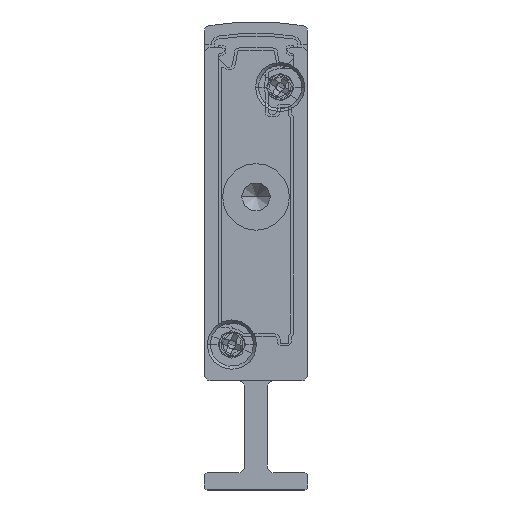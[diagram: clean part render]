
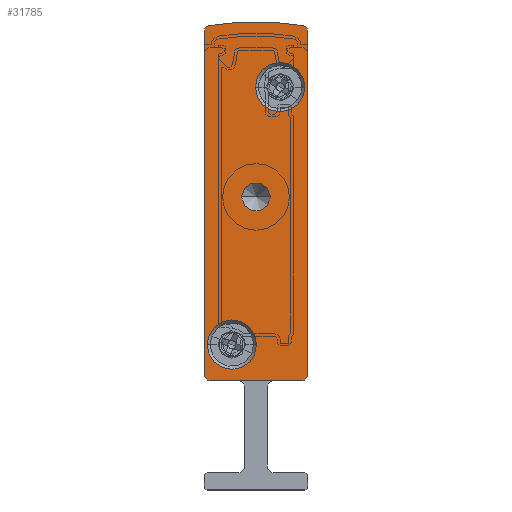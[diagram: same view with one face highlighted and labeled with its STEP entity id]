
A CAD part, front view. The second image highlights one B-rep face of the part: STEP entity #31785.
In plain terms, the highlighted planar face has unit normal (0, -1, 0).
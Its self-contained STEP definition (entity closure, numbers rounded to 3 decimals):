
#396 = DIRECTION ( 'NONE',  ( 0., 1., 0. ) ) ;
#408 = CARTESIAN_POINT ( 'NONE',  ( 3.25, -2.5, 25.5 ) ) ;
#771 = CARTESIAN_POINT ( 'NONE',  ( 0.408, -2.5, 40.393 ) ) ;
#800 = DIRECTION ( 'NONE',  ( 1., 0., 0. ) ) ;
#884 = EDGE_CURVE ( 'NONE', #22209, #15257, #7008, .T. ) ;
#1146 = FACE_BOUND ( 'NONE', #15291, .T. ) ;
#2244 = DIRECTION ( 'NONE',  ( 0., 1., 0. ) ) ;
#2421 = AXIS2_PLACEMENT_3D ( 'NONE', #19255, #29443, #11363 ) ;
#2472 = CARTESIAN_POINT ( 'NONE',  ( 0., -2.5, 39.902 ) ) ;
#2985 = CARTESIAN_POINT ( 'NONE',  ( 9., -2.5, 39.902 ) ) ;
#3106 = DIRECTION ( 'NONE',  ( -1., 0., 0. ) ) ;
#3147 = DIRECTION ( 'NONE',  ( 1., 0., 0. ) ) ;
#3512 = EDGE_CURVE ( 'NONE', #21135, #7149, #32043, .T. ) ;
#4092 = ORIENTED_EDGE ( 'NONE', *, *, #18739, .F. ) ;
#4157 = VERTEX_POINT ( 'NONE', #25643 ) ;
#4274 = VERTEX_POINT ( 'NONE', #14602 ) ;
#4283 = CARTESIAN_POINT ( 'NONE',  ( 0.5, -2.5, 39.902 ) ) ;
#4469 = AXIS2_PLACEMENT_3D ( 'NONE', #31630, #23795, #16023 ) ;
#4506 = ORIENTED_EDGE ( 'NONE', *, *, #21508, .F. ) ;
#4581 = CARTESIAN_POINT ( 'NONE',  ( 8.5, -2.5, 9.5 ) ) ;
#4584 = EDGE_CURVE ( 'NONE', #27306, #22209, #31386, .T. ) ;
#4611 = CIRCLE ( 'NONE', #23855, 0.5 ) ;
#4636 = VECTOR ( 'NONE', #9431, 1000. ) ;
#4805 = AXIS2_PLACEMENT_3D ( 'NONE', #23309, #21094, #23426 ) ;
#5381 = CARTESIAN_POINT ( 'NONE',  ( 4.5, -2.5, 25.5 ) ) ;
#5399 = VERTEX_POINT ( 'NONE', #16765 ) ;
#5523 = AXIS2_PLACEMENT_3D ( 'NONE', #11200, #10968, #800 ) ;
#5588 = DIRECTION ( 'NONE',  ( -1., 0., 0. ) ) ;
#5612 = CARTESIAN_POINT ( 'NONE',  ( 8.592, -2.5, 40.393 ) ) ;
#5641 = CARTESIAN_POINT ( 'NONE',  ( 9., -2.5, 10. ) ) ;
#5718 = DIRECTION ( 'NONE',  ( 1., 0., 0. ) ) ;
#5820 = DIRECTION ( 'NONE',  ( -1., 0., 0. ) ) ;
#5857 = CARTESIAN_POINT ( 'NONE',  ( 0., -2.5, 10. ) ) ;
#6245 = AXIS2_PLACEMENT_3D ( 'NONE', #29293, #29409, #3147 ) ;
#6287 = ORIENTED_EDGE ( 'NONE', *, *, #18529, .F. ) ;
#6732 = ORIENTED_EDGE ( 'NONE', *, *, #22686, .T. ) ;
#7008 = LINE ( 'NONE', #2985, #11057 ) ;
#7106 = DIRECTION ( 'NONE',  ( -1., 0., 0. ) ) ;
#7149 = VERTEX_POINT ( 'NONE', #2472 ) ;
#7529 = EDGE_LOOP ( 'NONE', ( #11755, #6732 ) ) ;
#7634 = CARTESIAN_POINT ( 'NONE',  ( 9., -2.5, 39.902 ) ) ;
#7943 = AXIS2_PLACEMENT_3D ( 'NONE', #10150, #2244, #12693 ) ;
#7958 = CARTESIAN_POINT ( 'NONE',  ( 4.5, -2.5, 25.5 ) ) ;
#8032 = FACE_BOUND ( 'NONE', #7529, .T. ) ;
#8749 = ORIENTED_EDGE ( 'NONE', *, *, #3512, .F. ) ;
#9431 = DIRECTION ( 'NONE',  ( 0., 0., 1. ) ) ;
#9870 = VECTOR ( 'NONE', #20631, 1000. ) ;
#9899 = CIRCLE ( 'NONE', #22816, 0.5 ) ;
#10150 = CARTESIAN_POINT ( 'NONE',  ( 8.5, -2.5, 10. ) ) ;
#10543 = CIRCLE ( 'NONE', #7943, 0.5 ) ;
#10547 = DIRECTION ( 'NONE',  ( 0., 1., 0. ) ) ;
#10786 = DIRECTION ( 'NONE',  ( 0., -1., 0. ) ) ;
#10929 = AXIS2_PLACEMENT_3D ( 'NONE', #7958, #10547, #5820 ) ;
#10968 = DIRECTION ( 'NONE',  ( 0., -1., 0. ) ) ;
#11057 = VECTOR ( 'NONE', #28922, 1000. ) ;
#11200 = CARTESIAN_POINT ( 'NONE',  ( 2.4, -2.5, 12.65 ) ) ;
#11363 = DIRECTION ( 'NONE',  ( -1., 0., 0. ) ) ;
#11755 = ORIENTED_EDGE ( 'NONE', *, *, #26199, .T. ) ;
#12693 = DIRECTION ( 'NONE',  ( -1., 0., 0. ) ) ;
#12916 = VERTEX_POINT ( 'NONE', #24283 ) ;
#12974 = ORIENTED_EDGE ( 'NONE', *, *, #15947, .F. ) ;
#13917 = CIRCLE ( 'NONE', #2421, 23.658 ) ;
#14022 = CIRCLE ( 'NONE', #19822, 1.25 ) ;
#14214 = AXIS2_PLACEMENT_3D ( 'NONE', #23332, #10786, #5718 ) ;
#14602 = CARTESIAN_POINT ( 'NONE',  ( 0.5, -2.5, 9.5 ) ) ;
#14654 = ORIENTED_EDGE ( 'NONE', *, *, #27545, .F. ) ;
#15257 = VERTEX_POINT ( 'NONE', #5641 ) ;
#15291 = EDGE_LOOP ( 'NONE', ( #19580, #14654 ) ) ;
#15759 = CIRCLE ( 'NONE', #5523, 2.15 ) ;
#15915 = CARTESIAN_POINT ( 'NONE',  ( 0.5, -2.5, 10. ) ) ;
#15947 = EDGE_CURVE ( 'NONE', #15257, #22197, #10543, .T. ) ;
#16023 = DIRECTION ( 'NONE',  ( -1., 0., 0. ) ) ;
#16765 = CARTESIAN_POINT ( 'NONE',  ( 8.75, -2.5, 35.05 ) ) ;
#17363 = FACE_BOUND ( 'NONE', #18501, .T. ) ;
#17412 = VERTEX_POINT ( 'NONE', #23694 ) ;
#18501 = EDGE_LOOP ( 'NONE', ( #29066, #20369 ) ) ;
#18529 = EDGE_CURVE ( 'NONE', #7149, #23867, #4611, .T. ) ;
#18546 = ORIENTED_EDGE ( 'NONE', *, *, #30314, .F. ) ;
#18739 = EDGE_CURVE ( 'NONE', #23867, #27306, #13917, .T. ) ;
#19255 = CARTESIAN_POINT ( 'NONE',  ( 4.5, -2.5, 17.092 ) ) ;
#19580 = ORIENTED_EDGE ( 'NONE', *, *, #21483, .F. ) ;
#19603 = CIRCLE ( 'NONE', #14214, 2.15 ) ;
#19822 = AXIS2_PLACEMENT_3D ( 'NONE', #5381, #396, #25986 ) ;
#20369 = ORIENTED_EDGE ( 'NONE', *, *, #31497, .F. ) ;
#20631 = DIRECTION ( 'NONE',  ( -1., 0., 0. ) ) ;
#20747 = DIRECTION ( 'NONE',  ( 0., 1., 0. ) ) ;
#21094 = DIRECTION ( 'NONE',  ( 0., -1., 0. ) ) ;
#21135 = VERTEX_POINT ( 'NONE', #5857 ) ;
#21483 = EDGE_CURVE ( 'NONE', #5399, #4157, #21619, .T. ) ;
#21508 = EDGE_CURVE ( 'NONE', #22197, #4274, #22009, .T. ) ;
#21619 = CIRCLE ( 'NONE', #4805, 2.15 ) ;
#21791 = VERTEX_POINT ( 'NONE', #33035 ) ;
#22009 = LINE ( 'NONE', #30931, #9870 ) ;
#22197 = VERTEX_POINT ( 'NONE', #4581 ) ;
#22209 = VERTEX_POINT ( 'NONE', #7634 ) ;
#22213 = CARTESIAN_POINT ( 'NONE',  ( 0., -2.5, 39.902 ) ) ;
#22551 = ORIENTED_EDGE ( 'NONE', *, *, #884, .F. ) ;
#22686 = EDGE_CURVE ( 'NONE', #17412, #27391, #14022, .T. ) ;
#22816 = AXIS2_PLACEMENT_3D ( 'NONE', #15915, #31198, #3106 ) ;
#23309 = CARTESIAN_POINT ( 'NONE',  ( 6.6, -2.5, 35.05 ) ) ;
#23332 = CARTESIAN_POINT ( 'NONE',  ( 2.4, -2.5, 12.65 ) ) ;
#23426 = DIRECTION ( 'NONE',  ( 1., 0., 0. ) ) ;
#23694 = CARTESIAN_POINT ( 'NONE',  ( 5.75, -2.5, 25.5 ) ) ;
#23795 = DIRECTION ( 'NONE',  ( 0., 1., 0. ) ) ;
#23855 = AXIS2_PLACEMENT_3D ( 'NONE', #28555, #20747, #5588 ) ;
#23867 = VERTEX_POINT ( 'NONE', #771 ) ;
#24197 = FACE_OUTER_BOUND ( 'NONE', #27285, .T. ) ;
#24235 = CIRCLE ( 'NONE', #10929, 1.25 ) ;
#24283 = CARTESIAN_POINT ( 'NONE',  ( 0.25, -2.5, 12.65 ) ) ;
#24703 = DIRECTION ( 'NONE',  ( 0., 1., 0. ) ) ;
#25643 = CARTESIAN_POINT ( 'NONE',  ( 4.45, -2.5, 35.05 ) ) ;
#25986 = DIRECTION ( 'NONE',  ( -1., 0., 0. ) ) ;
#26199 = EDGE_CURVE ( 'NONE', #27391, #17412, #24235, .T. ) ;
#27285 = EDGE_LOOP ( 'NONE', ( #6287, #8749, #18546, #4506, #12974, #22551, #32392, #4092 ) ) ;
#27306 = VERTEX_POINT ( 'NONE', #5612 ) ;
#27391 = VERTEX_POINT ( 'NONE', #408 ) ;
#27545 = EDGE_CURVE ( 'NONE', #4157, #5399, #30001, .T. ) ;
#28555 = CARTESIAN_POINT ( 'NONE',  ( 0.5, -2.5, 39.902 ) ) ;
#28922 = DIRECTION ( 'NONE',  ( 0., 0., -1. ) ) ;
#29066 = ORIENTED_EDGE ( 'NONE', *, *, #32979, .F. ) ;
#29293 = CARTESIAN_POINT ( 'NONE',  ( 6.6, -2.5, 35.05 ) ) ;
#29409 = DIRECTION ( 'NONE',  ( 0., -1., 0. ) ) ;
#29443 = DIRECTION ( 'NONE',  ( 0., 1., 0. ) ) ;
#30001 = CIRCLE ( 'NONE', #6245, 2.15 ) ;
#30050 = AXIS2_PLACEMENT_3D ( 'NONE', #4283, #24703, #7106 ) ;
#30062 = PLANE ( 'NONE',  #30050 ) ;
#30314 = EDGE_CURVE ( 'NONE', #4274, #21135, #9899, .T. ) ;
#30931 = CARTESIAN_POINT ( 'NONE',  ( 0.5, -2.5, 9.5 ) ) ;
#31198 = DIRECTION ( 'NONE',  ( 0., 1., 0. ) ) ;
#31386 = CIRCLE ( 'NONE', #4469, 0.5 ) ;
#31497 = EDGE_CURVE ( 'NONE', #12916, #21791, #15759, .T. ) ;
#31630 = CARTESIAN_POINT ( 'NONE',  ( 8.5, -2.5, 39.902 ) ) ;
#31785 = ADVANCED_FACE ( 'NONE', ( #1146, #17363, #24197, #8032 ), #30062, .F. ) ;
#32043 = LINE ( 'NONE', #22213, #4636 ) ;
#32392 = ORIENTED_EDGE ( 'NONE', *, *, #4584, .F. ) ;
#32979 = EDGE_CURVE ( 'NONE', #21791, #12916, #19603, .T. ) ;
#33035 = CARTESIAN_POINT ( 'NONE',  ( 4.55, -2.5, 12.65 ) ) ;
